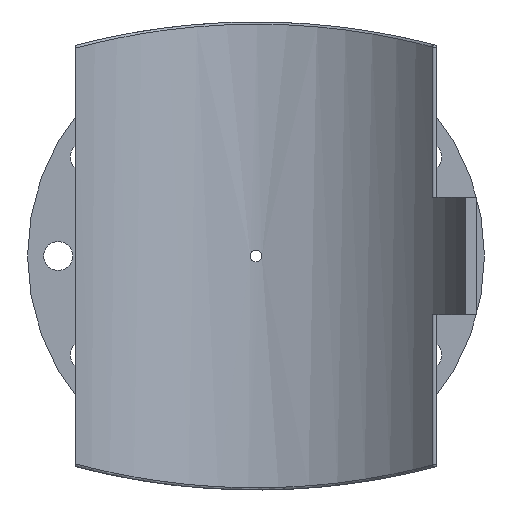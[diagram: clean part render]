
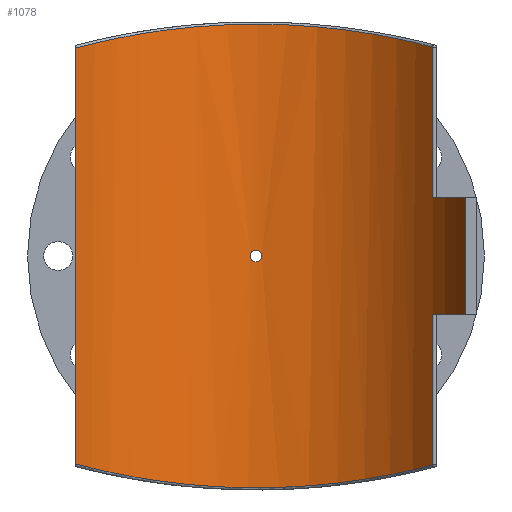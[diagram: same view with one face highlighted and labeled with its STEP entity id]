
A CAD part, front view. The second image highlights one B-rep face of the part: STEP entity #1078.
In plain terms, the highlighted cylindrical face has radius 200 mm (diameter 400 mm), a partial arc.
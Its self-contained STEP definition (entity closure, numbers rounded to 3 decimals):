
#55=FACE_BOUND('',#355,.T.);
#109=B_SPLINE_CURVE_WITH_KNOTS('',3,(#2208,#2209,#2210,#2211,#2212,#2213,
#2214,#2215,#2216,#2217),.UNSPECIFIED.,.F.,.F.,(4,1,1,1,1,1,1,4),(-44.308,
-38.906,-33.503,-28.1,-22.697,
-17.294,-11.891,-6.488),.UNSPECIFIED.);
#110=B_SPLINE_CURVE_WITH_KNOTS('',3,(#2226,#2227,#2228,#2229,#2230,#2231,
#2232,#2233,#2234,#2235),.UNSPECIFIED.,.F.,.F.,(4,1,1,1,1,1,1,4),(-41.9,
-36.497,-31.094,-25.692,-20.289,
-14.886,-9.483,-4.08),.UNSPECIFIED.);
#111=B_SPLINE_CURVE_WITH_KNOTS('',3,(#2238,#2239,#2240,#2241,#2242,#2243,
#2244,#2245,#2246,#2247),.UNSPECIFIED.,.F.,.F.,(4,2,2,2,4),(0.,0.196,
0.392,0.588,0.784),.UNSPECIFIED.);
#112=B_SPLINE_CURVE_WITH_KNOTS('',3,(#2248,#2249,#2250,#2251,#2252,#2253,
#2254,#2255,#2256,#2257,#2258,#2259,#2260,#2261,#2262,#2263,#2264,#2265,
#2266,#2267,#2268,#2269,#2270,#2271,#2272,#2273),.UNSPECIFIED.,.F.,.F.,
(4,2,2,2,2,2,2,2,2,2,2,2,4),(0.784,0.979,1.175,
1.371,1.567,1.763,1.959,2.155,
2.351,2.547,2.742,2.938,3.134),
 .UNSPECIFIED.);
#133=LINE('',#1615,#184);
#144=LINE('',#1907,#195);
#151=LINE('',#2222,#202);
#152=LINE('',#2225,#203);
#184=VECTOR('',#1292,10.);
#195=VECTOR('',#1331,10.);
#202=VECTOR('',#1368,10.);
#203=VECTOR('',#1371,10.);
#244=CYLINDRICAL_SURFACE('',#1175,200.);
#288=FACE_OUTER_BOUND('',#354,.T.);
#354=EDGE_LOOP('',(#839,#840,#841,#842,#843,#844,#845,#846));
#355=EDGE_LOOP('',(#847,#848));
#449=CIRCLE('',#1176,200.);
#450=CIRCLE('',#1177,200.);
#510=VERTEX_POINT('',#1606);
#513=VERTEX_POINT('',#1613);
#533=VERTEX_POINT('',#1900);
#536=VERTEX_POINT('',#1905);
#549=VERTEX_POINT('',#2199);
#550=VERTEX_POINT('',#2219);
#551=VERTEX_POINT('',#2221);
#552=VERTEX_POINT('',#2224);
#553=VERTEX_POINT('',#2236);
#554=VERTEX_POINT('',#2237);
#613=EDGE_CURVE('',#513,#510,#133,.T.);
#643=EDGE_CURVE('',#536,#533,#144,.T.);
#666=EDGE_CURVE('',#549,#536,#109,.T.);
#667=EDGE_CURVE('',#550,#513,#449,.T.);
#668=EDGE_CURVE('',#550,#551,#151,.T.);
#669=EDGE_CURVE('',#533,#551,#450,.T.);
#670=EDGE_CURVE('',#552,#549,#152,.T.);
#671=EDGE_CURVE('',#510,#552,#110,.T.);
#672=EDGE_CURVE('',#553,#554,#111,.T.);
#673=EDGE_CURVE('',#554,#553,#112,.T.);
#839=ORIENTED_EDGE('',*,*,#667,.F.);
#840=ORIENTED_EDGE('',*,*,#668,.T.);
#841=ORIENTED_EDGE('',*,*,#669,.F.);
#842=ORIENTED_EDGE('',*,*,#643,.F.);
#843=ORIENTED_EDGE('',*,*,#666,.F.);
#844=ORIENTED_EDGE('',*,*,#670,.F.);
#845=ORIENTED_EDGE('',*,*,#671,.F.);
#846=ORIENTED_EDGE('',*,*,#613,.F.);
#847=ORIENTED_EDGE('',*,*,#672,.T.);
#848=ORIENTED_EDGE('',*,*,#673,.T.);
#1078=ADVANCED_FACE('',(#288,#55),#244,.F.);
#1175=AXIS2_PLACEMENT_3D('',#2218,#1364,#1365);
#1176=AXIS2_PLACEMENT_3D('',#2220,#1366,#1367);
#1177=AXIS2_PLACEMENT_3D('',#2223,#1369,#1370);
#1292=DIRECTION('',(0.,0.,-1.));
#1331=DIRECTION('',(0.,0.,-1.));
#1364=DIRECTION('center_axis',(0.,0.,1.));
#1365=DIRECTION('ref_axis',(-1.,0.,0.));
#1366=DIRECTION('center_axis',(0.,0.,1.));
#1367=DIRECTION('ref_axis',(-0.939,-0.344,0.));
#1368=DIRECTION('',(0.,0.,1.));
#1369=DIRECTION('center_axis',(0.,0.,-1.));
#1370=DIRECTION('ref_axis',(-0.939,-0.344,0.));
#1371=DIRECTION('',(0.,0.,1.));
#1606=CARTESIAN_POINT('',(158.416,122.084,-187.457));
#1613=CARTESIAN_POINT('',(158.416,122.084,-52.5));
#1615=CARTESIAN_POINT('',(158.416,122.084,0.));
#1900=CARTESIAN_POINT('',(158.416,122.084,52.5));
#1905=CARTESIAN_POINT('',(158.416,122.084,187.457));
#1907=CARTESIAN_POINT('',(158.416,122.084,0.));
#2199=CARTESIAN_POINT('',(-162.,117.286,186.5));
#2208=CARTESIAN_POINT('Ctrl Pts',(-162.,117.286,186.5));
#2209=CARTESIAN_POINT('Ctrl Pts',(-151.669,131.556,189.291));
#2210=CARTESIAN_POINT('Ctrl Pts',(-127.269,157.296,195.308));
#2211=CARTESIAN_POINT('Ctrl Pts',(-81.716,185.135,203.265));
#2212=CARTESIAN_POINT('Ctrl Pts',(-30.053,200.156,208.043));
#2213=CARTESIAN_POINT('Ctrl Pts',(23.972,200.98,208.317));
#2214=CARTESIAN_POINT('Ctrl Pts',(76.105,187.515,203.999));
#2215=CARTESIAN_POINT('Ctrl Pts',(122.509,161.034,196.307));
#2216=CARTESIAN_POINT('Ctrl Pts',(147.667,136.032,190.292));
#2217=CARTESIAN_POINT('Ctrl Pts',(158.416,122.084,187.457));
#2218=CARTESIAN_POINT('Origin',(0.,0.,0.));
#2219=CARTESIAN_POINT('',(187.797,68.791,-52.5));
#2220=CARTESIAN_POINT('Origin',(0.,0.,
-52.5));
#2221=CARTESIAN_POINT('',(187.797,68.791,52.5));
#2222=CARTESIAN_POINT('',(187.797,68.791,0.));
#2223=CARTESIAN_POINT('Origin',(0.,0.,
52.5));
#2224=CARTESIAN_POINT('',(-162.,117.286,-186.5));
#2225=CARTESIAN_POINT('',(-162.,117.286,0.));
#2226=CARTESIAN_POINT('Ctrl Pts',(158.416,122.084,-187.457));
#2227=CARTESIAN_POINT('Ctrl Pts',(147.667,136.032,-190.292));
#2228=CARTESIAN_POINT('Ctrl Pts',(122.509,161.033,-196.307));
#2229=CARTESIAN_POINT('Ctrl Pts',(76.106,187.516,-204.));
#2230=CARTESIAN_POINT('Ctrl Pts',(23.971,200.978,-208.315));
#2231=CARTESIAN_POINT('Ctrl Pts',(-30.054,200.159,-208.046));
#2232=CARTESIAN_POINT('Ctrl Pts',(-81.715,185.134,-203.264));
#2233=CARTESIAN_POINT('Ctrl Pts',(-127.269,157.296,-195.308));
#2234=CARTESIAN_POINT('Ctrl Pts',(-151.669,131.556,-189.291));
#2235=CARTESIAN_POINT('Ctrl Pts',(-162.,117.286,-186.5));
#2236=CARTESIAN_POINT('',(5.2,199.932,0.));
#2237=CARTESIAN_POINT('',(0.,200.,-5.2));
#2238=CARTESIAN_POINT('Ctrl Pts',(5.2,199.932,0.));
#2239=CARTESIAN_POINT('Ctrl Pts',(5.2,199.932,-0.653));
#2240=CARTESIAN_POINT('Ctrl Pts',(5.07,199.936,-1.349));
#2241=CARTESIAN_POINT('Ctrl Pts',(4.539,199.949,-2.631));
#2242=CARTESIAN_POINT('Ctrl Pts',(4.139,199.958,-3.215));
#2243=CARTESIAN_POINT('Ctrl Pts',(3.215,199.975,-4.139));
#2244=CARTESIAN_POINT('Ctrl Pts',(2.631,199.984,-4.539));
#2245=CARTESIAN_POINT('Ctrl Pts',(1.349,199.996,-5.07));
#2246=CARTESIAN_POINT('Ctrl Pts',(0.653,200.,-5.2));
#2247=CARTESIAN_POINT('Ctrl Pts',(0.,200.,-5.2));
#2248=CARTESIAN_POINT('Ctrl Pts',(0.,200.,-5.2));
#2249=CARTESIAN_POINT('Ctrl Pts',(-0.653,200.,-5.2));
#2250=CARTESIAN_POINT('Ctrl Pts',(-1.349,199.996,-5.07));
#2251=CARTESIAN_POINT('Ctrl Pts',(-2.631,199.984,-4.539));
#2252=CARTESIAN_POINT('Ctrl Pts',(-3.215,199.975,-4.139));
#2253=CARTESIAN_POINT('Ctrl Pts',(-4.139,199.958,-3.215));
#2254=CARTESIAN_POINT('Ctrl Pts',(-4.539,199.949,-2.631));
#2255=CARTESIAN_POINT('Ctrl Pts',(-5.07,199.936,-1.349));
#2256=CARTESIAN_POINT('Ctrl Pts',(-5.2,199.932,-0.653));
#2257=CARTESIAN_POINT('Ctrl Pts',(-5.2,199.932,0.653));
#2258=CARTESIAN_POINT('Ctrl Pts',(-5.07,199.936,1.349));
#2259=CARTESIAN_POINT('Ctrl Pts',(-4.539,199.949,2.631));
#2260=CARTESIAN_POINT('Ctrl Pts',(-4.139,199.958,3.215));
#2261=CARTESIAN_POINT('Ctrl Pts',(-3.215,199.975,4.139));
#2262=CARTESIAN_POINT('Ctrl Pts',(-2.631,199.984,4.539));
#2263=CARTESIAN_POINT('Ctrl Pts',(-1.349,199.996,5.07));
#2264=CARTESIAN_POINT('Ctrl Pts',(-0.653,200.,5.2));
#2265=CARTESIAN_POINT('Ctrl Pts',(0.653,200.,5.2));
#2266=CARTESIAN_POINT('Ctrl Pts',(1.349,199.996,5.07));
#2267=CARTESIAN_POINT('Ctrl Pts',(2.631,199.984,4.539));
#2268=CARTESIAN_POINT('Ctrl Pts',(3.215,199.975,4.139));
#2269=CARTESIAN_POINT('Ctrl Pts',(4.139,199.958,3.215));
#2270=CARTESIAN_POINT('Ctrl Pts',(4.539,199.949,2.631));
#2271=CARTESIAN_POINT('Ctrl Pts',(5.07,199.936,1.349));
#2272=CARTESIAN_POINT('Ctrl Pts',(5.2,199.932,0.653));
#2273=CARTESIAN_POINT('Ctrl Pts',(5.2,199.932,0.));
